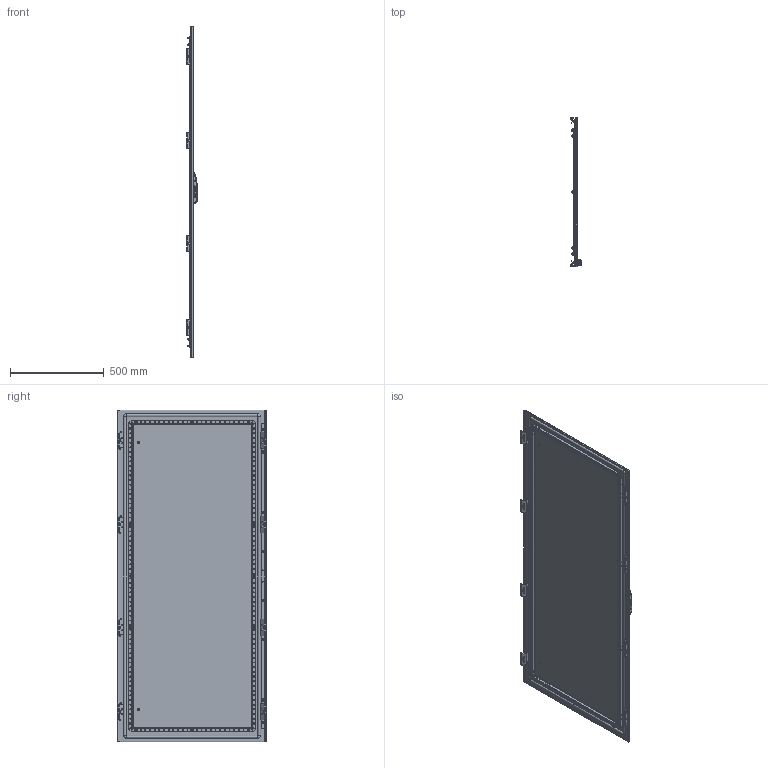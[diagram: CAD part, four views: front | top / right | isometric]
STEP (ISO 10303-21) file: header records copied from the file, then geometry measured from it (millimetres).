
FILE_DESCRIPTION(('STEP AP203'), '1');
FILE_NAME('3410 ﾄ粢 ﾑﾁ', '', ('UNSPECIFIED'), ('UNSPECIFIED'), 'C3D Converter', 'C3D Toolkit', '');
FILE_SCHEMA(('CONFIG_CONTROL_DESIGN'));
Length unit declared in the file: millimetre
Products named in the file (29): 3410.180.80 СБ; 3420; 3421; 3422.01; 3412; 3411; 2952; 3009.05; 3009.05.01; 3622.01; 3009.08; 3009.08.01
Assembly tree (115 placements, depth 4):
  3410.180.80 СБ
    3420
      3421
      3422.01  x4
      (unnamed)  x14
      (unnamed)  x8
      (unnamed)  x2
    3412  x2
    3411  x2
    (unnamed)  x4
    (unnamed)  x14
    (unnamed)  x22
    (unnamed)  x8
    2952
      (unnamed)
        (unnamed)
        (unnamed)
        (unnamed)
        (unnamed)
        (unnamed)
    (unnamed)  x2
    3009.05  x4
      3009.05.01
      (unnamed)
      (unnamed)
    3622.01  x4
    (unnamed)  x4
    3009.08  x4
      3009.08.01
      (unnamed)
      (unnamed)
Bounding box: 55 x 797.03 x 1771 mm (x, y, z)
Volume: 3358951.5 mm3; surface area: 4060838.4 mm2
Topology: 130 solids, 130 shells, 4333 faces, 10921 edges, 7022 vertices
Faces by surface type: plane 2555, cylinder 1053, cone 482, bspline 151, torus 81, sphere 11
Full cylindrical faces by diameter (mm): 0.5 x22, 4.134 x8, 4.3 x2, 4.5 x164, 4.917 x22, 5 x24, 5.2 x1, 5.8 x8, 6 x36, 6.1 x4, 6.6 x22, 6.75 x22, 7 x8, 7.3 x22, 7.5 x22, 8 x20, 8.3 x16, 8.5 x1, 9.2 x18, 10 x23, 10.5 x4, 11.5 x4, 12 x26, 13 x1, 15 x1, 20.7 x1, 21 x1
Entity records: 74731 total; most frequent: CARTESIAN_POINT 31224, ORIENTED_EDGE 6928, DIRECTION 6526, EDGE_CURVE 3464, AXIS2_PLACEMENT_3D 2341, VERTEX_POINT 2295, EDGE_LOOP 1941, LINE 1844
